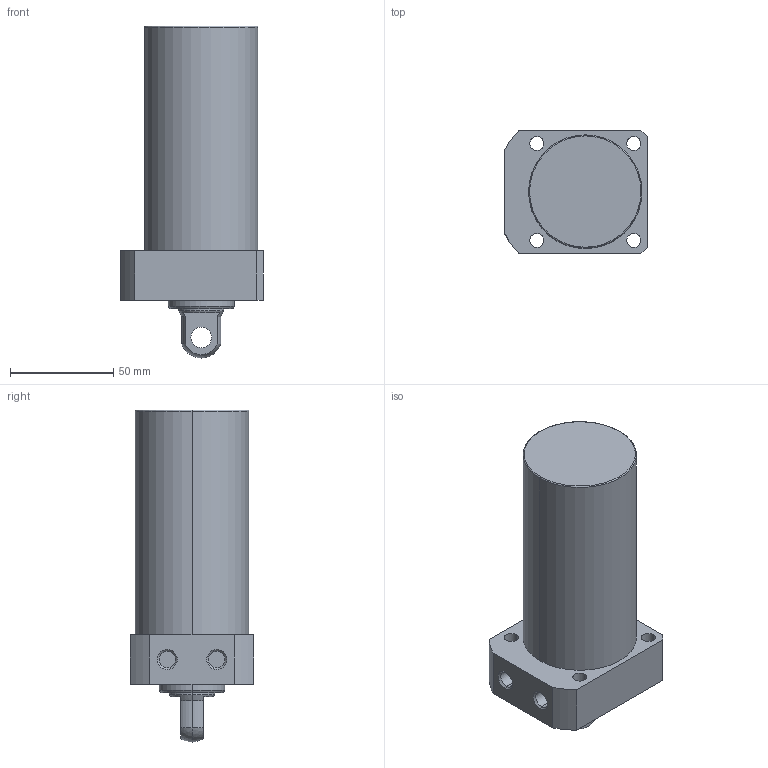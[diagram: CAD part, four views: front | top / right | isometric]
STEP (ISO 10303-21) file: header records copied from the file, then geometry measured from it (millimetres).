
FILE_DESCRIPTION (( 'STEP AP203' ), '1' );
FILE_NAME ('CLLR055-CP-080.STEP', '2017-05-16T03:21:32', ( '' ), ( '' ), 'SwSTEP 2.0', 'SolidWorks 2015', '' );
FILE_SCHEMA (( 'CONFIG_CONTROL_DESIGN' ));
Length unit declared in the file: millimetre
Products named in the file (1): CLLR055-CP-080
Bounding box: 69 x 60 x 161 mm (x, y, z)
Volume: 358489.3 mm3; surface area: 37051.9 mm2
Topology: 1 solids, 1 shells, 59 faces, 139 edges, 89 vertices
Faces by surface type: cylinder 29, plane 18, cone 8, torus 2, sphere 2
Entity records: 1822 total; most frequent: DIRECTION 331, CARTESIAN_POINT 300, ORIENTED_EDGE 278, EDGE_CURVE 139, AXIS2_PLACEMENT_3D 136, VERTEX_POINT 89, CIRCLE 76, EDGE_LOOP 76
